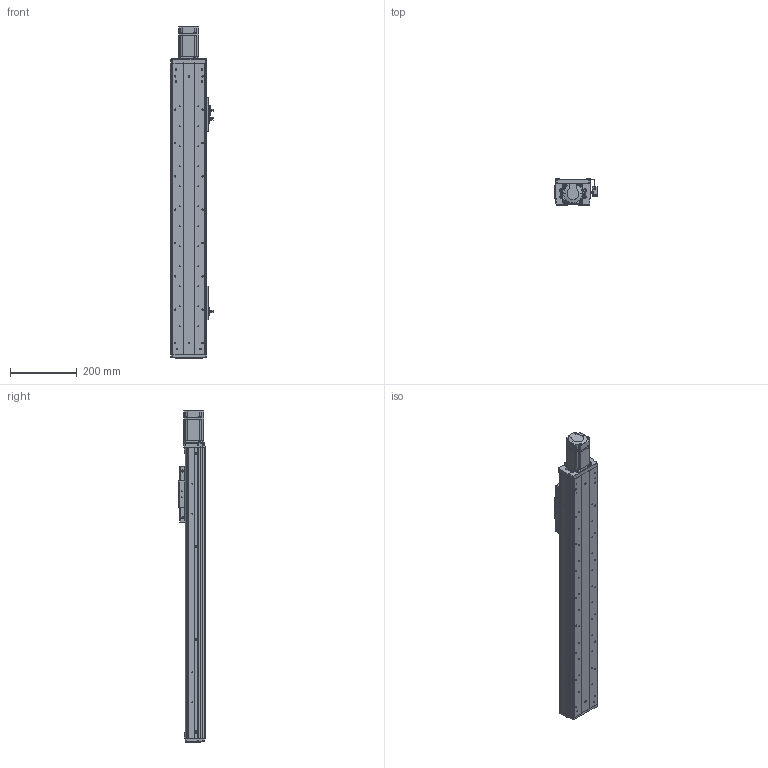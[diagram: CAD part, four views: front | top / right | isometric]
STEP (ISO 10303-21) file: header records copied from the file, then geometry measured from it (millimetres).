
FILE_DESCRIPTION (( 'STEP AP203' ), '1' );
FILE_NAME ('RY100FS-300-MK(15双轨).SLDASM_600.step', '2021-03-02T05:50:54', ( '盈信电脑' ), ( '东莞市道滘镇水果街19号' ), 'SwSTEP 2.0', 'SolidWorks 2012', '' );
FILE_SCHEMA (( 'CONFIG_CONTROL_DESIGN' ));
Length unit declared in the file: millimetre
Products named in the file (20): RY100FS-300-MK(15邧寢).SLDASM_600; 滅袉蝶14-35; RY100FS-15絳寢萇儂假蚾啣(200W PCD70 M4); 滅袉蝶14-24; RY100FS-双轨螺母座(16丝杆）; 覜茼ん672; RY80俋离覜茼え; RY100F-詩湍揤踡輸; 672嫖萇羲壽假蚾釱; 1; RY100F-詩湍揤踡謫; 侂狟200W萇儂; RY100F-綴裔啣; 棠沺沭; RY100FS-双轨铝滑块(上板）; RY100F-滅鳥裔啣; RY100F-詩湍幗謫粣; RY100FS-300-MK15邧寢祥凄詩湍_600; RY100FS-300-MK15絳寢倰第菁釱_600; RY100FS-300-MK15絳寢倰第奻裔啣_600
Assembly tree (27 placements, depth 3):
  RY100FS-300-MK(15邧寢).SLDASM_600
    RY100FS-300-MK15絳寢倰第菁釱_600
    RY100FS-300-MK15絳寢倰第奻裔啣_600  x2
    RY100FS-300-MK15邧寢祥凄詩湍_600
    RY100FS-双轨铝滑块(上板）
    RY100F-滅鳥裔啣
    棠沺沭  x2
    RY100F-詩湍幗謫粣
    RY100F-詩湍揤踡謫  x2
    侂狟200W萇儂
      1
    RY100F-綴裔啣
    672嫖萇羲壽假蚾釱  x2
    RY80俋离覜茼え  x2
    覜茼ん672  x3
    RY100F-詩湍揤踡輸  x2
    RY100FS-15絳寢萇儂假蚾啣(200W PCD70 M4)
    RY100FS-双轨螺母座(16丝杆）
    滅袉蝶14-24
    滅袉蝶14-35
Bounding box: 126.2 x 78.5 x 996 mm (x, y, z)
Volume: 2198528 mm3; surface area: 885592.8 mm2
Topology: 26 solids, 26 shells, 2023 faces, 5525 edges, 3592 vertices
Faces by surface type: plane 972, cylinder 890, cone 136, bspline 25
Entity records: 57760 total; most frequent: CARTESIAN_POINT 12014, DIRECTION 9080, ORIENTED_EDGE 9030, EDGE_CURVE 4515, AXIS2_PLACEMENT_3D 3188, VERTEX_POINT 2972, LINE 2704, VECTOR 2704
